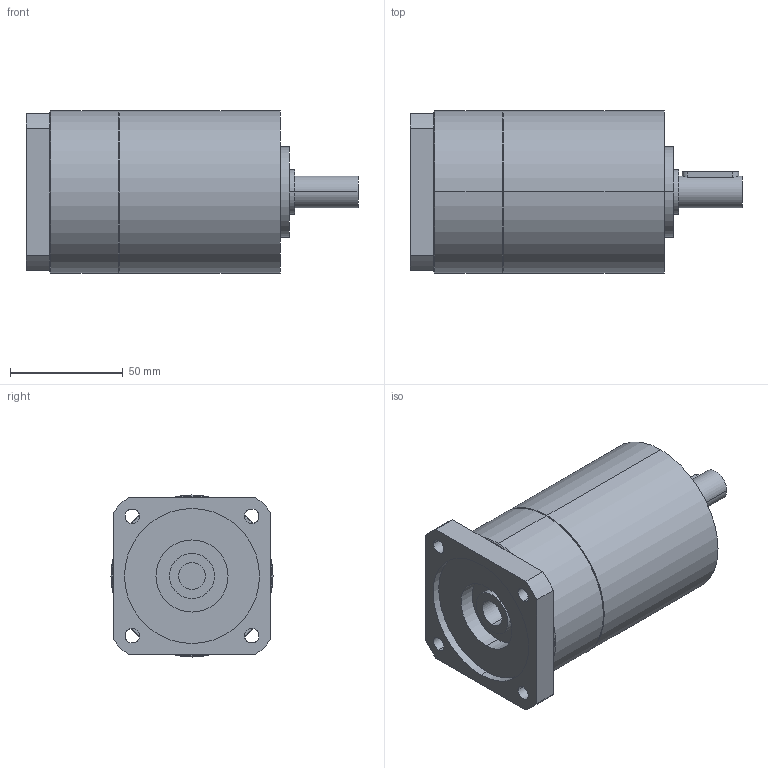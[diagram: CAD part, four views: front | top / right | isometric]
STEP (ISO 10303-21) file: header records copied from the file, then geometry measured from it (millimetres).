
FILE_DESCRIPTION(('CoCreate Modeling STEP Export'),'2;1');
FILE_NAME('GPT75_ig-9-12-16-20-25-28-35-40-50-70-100_14_B14T_12_P04.stp','2014-08-27T13:16:08',(''),(''),'CoCreate Modeling STEP processor for AP214 (Solid Model)','CoCreate Modeling 16.00C 25-Feb-2009 (C) Parametric Technology GmbH','');
FILE_SCHEMA(('AUTOMOTIVE_DESIGN { 1 0 10303 214 1 1 1 1 }'));
Length unit declared in the file: millimetre
Products named in the file (2): GPT75_ig-9-12-16-20-25-28-35-40-50-70-100_14_B14T_12_P04
Assembly tree (1 placements, depth 2):
  GPT75_ig-9-12-16-20-25-28-35-40-50-70-100_14_B14T_12_P04
    GPT75_ig-9-12-16-20-25-28-35-40-50-70-100_14_B14T_12_P04
Bounding box: 147.5 x 72 x 72 mm (x, y, z)
Volume: 457761.5 mm3; surface area: 42196 mm2
Topology: 1 solids, 1 shells, 80 faces, 192 edges, 123 vertices
Faces by surface type: cylinder 42, plane 34, cone 4
Entity records: 2323 total; most frequent: CARTESIAN_POINT 683, ORIENTED_EDGE 384, DIRECTION 276, EDGE_CURVE 192, VERTEX_POINT 123, AXIS2_PLACEMENT_3D 104, EDGE_LOOP 97, FACE_OUTER_BOUND 80
